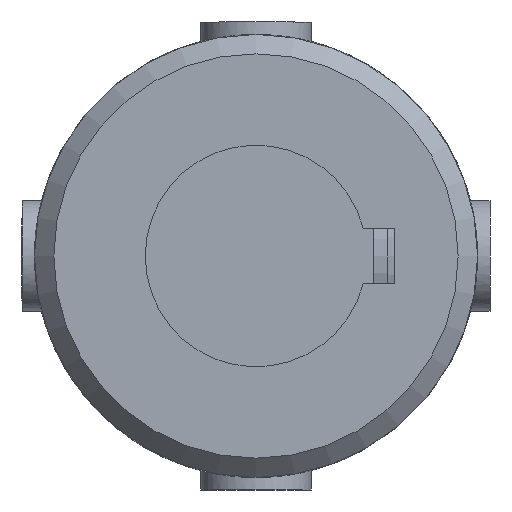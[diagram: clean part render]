
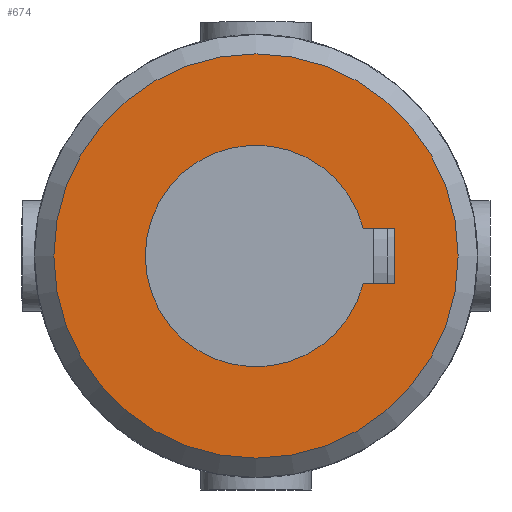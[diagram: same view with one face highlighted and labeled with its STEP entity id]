
A CAD part, front view. The second image highlights one B-rep face of the part: STEP entity #674.
In plain terms, the highlighted planar face has unit normal (0, -1, 0).
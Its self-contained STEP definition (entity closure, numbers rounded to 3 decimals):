
#81=LINE('',#1028,#114);
#86=LINE('',#1045,#119);
#87=LINE('',#1054,#120);
#114=VECTOR('',#844,1.127);
#119=VECTOR('',#855,1.127);
#120=VECTOR('',#858,2.);
#146=PLANE('',#735);
#169=FACE_BOUND('',#249,.T.);
#194=FACE_OUTER_BOUND('',#248,.T.);
#248=EDGE_LOOP('',(#541));
#249=EDGE_LOOP('',(#542,#543,#544,#545));
#282=CIRCLE('',#723,4.);
#287=CIRCLE('',#733,7.3);
#320=VERTEX_POINT('',#1017);
#321=VERTEX_POINT('',#1019);
#323=VERTEX_POINT('',#1027);
#329=VERTEX_POINT('',#1043);
#331=VERTEX_POINT('',#1060);
#391=EDGE_CURVE('',#321,#320,#282,.T.);
#394=EDGE_CURVE('',#323,#321,#81,.T.);
#402=EDGE_CURVE('',#320,#329,#86,.T.);
#404=EDGE_CURVE('',#329,#323,#87,.T.);
#407=EDGE_CURVE('',#331,#331,#287,.T.);
#541=ORIENTED_EDGE('',*,*,#407,.F.);
#542=ORIENTED_EDGE('',*,*,#402,.T.);
#543=ORIENTED_EDGE('',*,*,#404,.T.);
#544=ORIENTED_EDGE('',*,*,#394,.T.);
#545=ORIENTED_EDGE('',*,*,#391,.T.);
#674=ADVANCED_FACE('',(#194,#169),#146,.F.);
#723=AXIS2_PLACEMENT_3D('',#1020,#839,#840);
#733=AXIS2_PLACEMENT_3D('',#1061,#867,#868);
#735=AXIS2_PLACEMENT_3D('',#1229,#875,#876);
#839=DIRECTION('center_axis',(0.,1.,0.));
#840=DIRECTION('ref_axis',(-0.25,0.,0.968));
#844=DIRECTION('',(0.,0.,1.));
#855=DIRECTION('',(0.,0.,-1.));
#858=DIRECTION('',(-1.,0.,0.));
#867=DIRECTION('center_axis',(0.,1.,0.));
#868=DIRECTION('ref_axis',(1.,0.,0.));
#875=DIRECTION('center_axis',(0.,1.,0.));
#876=DIRECTION('ref_axis',(0.,0.,1.));
#1017=CARTESIAN_POINT('',(1.,-24.,-3.873));
#1019=CARTESIAN_POINT('',(-1.,-24.,-3.873));
#1020=CARTESIAN_POINT('Origin',(0.,-24.,0.));
#1027=CARTESIAN_POINT('',(-1.,-24.,-5.));
#1028=CARTESIAN_POINT('',(-1.,-24.,-2.5));
#1043=CARTESIAN_POINT('',(1.,-24.,-5.));
#1045=CARTESIAN_POINT('',(1.,-24.,-1.936));
#1054=CARTESIAN_POINT('',(0.5,-24.,-5.));
#1060=CARTESIAN_POINT('',(-7.3,-24.,0.));
#1061=CARTESIAN_POINT('Origin',(0.,-24.,0.));
#1229=CARTESIAN_POINT('Origin',(0.,-24.,0.));
